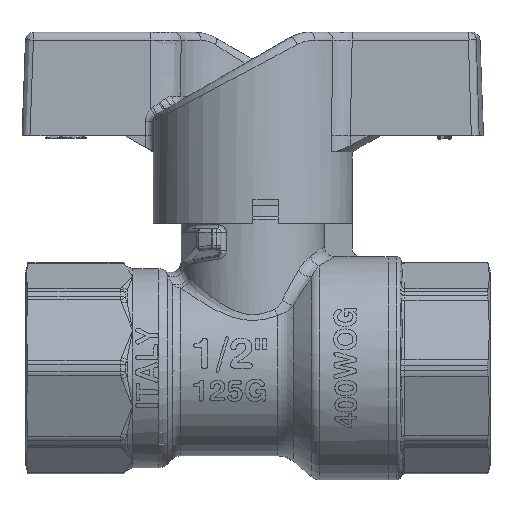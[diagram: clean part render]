
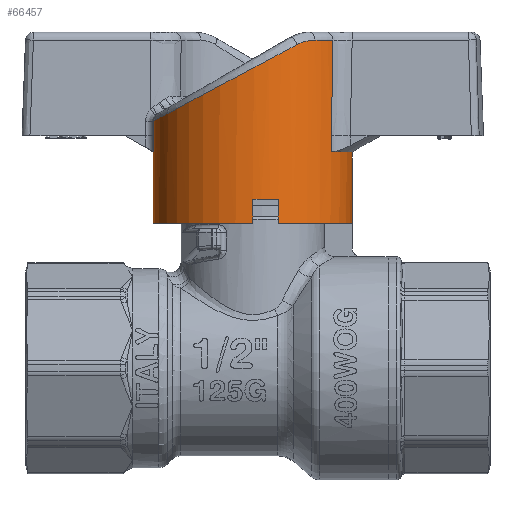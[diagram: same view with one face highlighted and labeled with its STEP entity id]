
A CAD part, top view. The second image highlights one B-rep face of the part: STEP entity #66457.
In plain terms, the highlighted cylindrical face has radius 12.5 mm (diameter 25 mm), a partial arc.
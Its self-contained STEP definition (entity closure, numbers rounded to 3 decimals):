
#61333=DIRECTION('',(0.,1.,0.));
#61334=VECTOR('',#61333,5.979);
#61335=CARTESIAN_POINT('',(12.5,3.,0.));
#61336=LINE('',#61335,#61334);
#61404=DIRECTION('',(0.,1.,0.));
#61405=VECTOR('',#61404,8.979);
#61406=CARTESIAN_POINT('',(-12.5,0.,0.));
#61407=LINE('',#61406,#61405);
#61436=CARTESIAN_POINT('',(0.,3.,0.));
#61437=DIRECTION('',(0.,-1.,0.));
#61438=DIRECTION('',(1.,0.,0.));
#61439=AXIS2_PLACEMENT_3D('',#61436,#61437,#61438);
#61484=DIRECTION('',(0.,-1.,0.));
#61485=VECTOR('',#61484,3.);
#61486=CARTESIAN_POINT('',(3.2,3.,12.083));
#61487=LINE('',#61486,#61485);
#61506=DIRECTION('',(0.,-1.,0.));
#61507=VECTOR('',#61506,3.);
#61508=CARTESIAN_POINT('',(12.49,3.,0.5));
#61509=LINE('',#61508,#61507);
#61514=CARTESIAN_POINT('',(0.,0.,0.));
#61515=DIRECTION('',(0.,-1.,0.));
#61516=DIRECTION('',(0.,0.,1.));
#61517=AXIS2_PLACEMENT_3D('',#61514,#61515,#61516);
#61519=CARTESIAN_POINT('',(0.,8.979,0.));
#61520=DIRECTION('',(0.,-1.,0.));
#61521=DIRECTION('',(-0.997,0.,0.074));
#61522=AXIS2_PLACEMENT_3D('',#61519,#61520,#61521);
#61524=DIRECTION('',(0.,-1.,0.));
#61525=VECTOR('',#61524,2.034);
#61526=CARTESIAN_POINT('',(-12.466,11.013,
0.926));
#61527=LINE('',#61526,#61525);
#61528=CARTESIAN_POINT('',(-12.469,12.851,
0.881));
#61529=CARTESIAN_POINT('',(-12.468,12.549,
0.889));
#61530=CARTESIAN_POINT('',(-12.467,11.941,
0.903));
#61531=CARTESIAN_POINT('',(-12.466,11.324,
0.918));
#61532=CARTESIAN_POINT('',(-12.466,11.013,
0.926));
#61534=CARTESIAN_POINT('',(-12.469,12.851,
0.881));
#61535=CARTESIAN_POINT('',(-12.448,12.863,
1.177));
#61536=CARTESIAN_POINT('',(-12.385,12.896,
1.77));
#61537=CARTESIAN_POINT('',(-12.227,12.98,
2.647));
#61538=CARTESIAN_POINT('',(-12.001,13.1,
3.537));
#61539=CARTESIAN_POINT('',(-11.686,13.267,
4.477));
#61540=CARTESIAN_POINT('',(-11.253,13.497,
5.484));
#61541=CARTESIAN_POINT('',(-10.864,13.704,
6.197));
#61542=CARTESIAN_POINT('',(-10.642,13.822,
6.558));
#61544=CARTESIAN_POINT('',(-10.642,13.822,
6.558));
#61545=CARTESIAN_POINT('',(-10.366,13.968,
7.005));
#61546=CARTESIAN_POINT('',(-9.751,14.295,
7.871));
#61547=CARTESIAN_POINT('',(-8.708,14.849,
9.018));
#61548=CARTESIAN_POINT('',(-7.378,15.556,
10.144));
#61549=CARTESIAN_POINT('',(-5.846,16.369,
11.099));
#61550=CARTESIAN_POINT('',(-4.152,17.269,
11.839));
#61551=CARTESIAN_POINT('',(-2.373,18.214,
12.317));
#61552=CARTESIAN_POINT('',(-0.632,19.139,
12.522));
#61553=CARTESIAN_POINT('',(0.959,19.984,
12.493));
#61554=CARTESIAN_POINT('',(2.364,20.73,12.299));
#61555=CARTESIAN_POINT('',(3.604,21.389,11.99));
#61556=CARTESIAN_POINT('',(4.692,21.967,11.603));
#61557=CARTESIAN_POINT('',(5.331,22.306,11.311));
#61558=CARTESIAN_POINT('',(5.628,22.464,11.161));
#61560=CARTESIAN_POINT('',(5.628,22.464,11.161));
#61561=CARTESIAN_POINT('',(5.74,22.523,11.105));
#61562=CARTESIAN_POINT('',(5.976,22.636,10.982));
#61563=CARTESIAN_POINT('',(6.366,22.783,10.761));
#61564=CARTESIAN_POINT('',(6.8,22.9,10.493));
#61565=CARTESIAN_POINT('',(7.277,22.98,10.17));
#61566=CARTESIAN_POINT('',(7.624,23.,9.909));
#61567=CARTESIAN_POINT('',(7.802,23.,9.766));
#61569=CARTESIAN_POINT('',(0.,23.,0.));
#61570=DIRECTION('',(0.,1.,0.));
#61571=DIRECTION('',(0.624,0.,0.781));
#61572=AXIS2_PLACEMENT_3D('',#61569,#61570,#61571);
#61574=CARTESIAN_POINT('',(10.068,23.,7.409));
#61575=CARTESIAN_POINT('',(10.054,22.084,7.428));
#61576=CARTESIAN_POINT('',(10.024,20.22,7.467));
#61577=CARTESIAN_POINT('',(9.979,17.356,7.528));
#61578=CARTESIAN_POINT('',(9.93,14.323,7.592));
#61579=CARTESIAN_POINT('',(9.895,12.156,7.638));
#61580=CARTESIAN_POINT('',(9.877,11.039,7.661));
#61582=DIRECTION('',(0.,-1.,0.));
#61583=VECTOR('',#61582,2.06);
#61584=CARTESIAN_POINT('',(9.877,11.039,7.661));
#61585=LINE('',#61584,#61583);
#61586=CARTESIAN_POINT('',(0.,0.,0.));
#61587=DIRECTION('',(0.,-1.,0.));
#61588=DIRECTION('',(0.999,0.,0.04));
#61589=AXIS2_PLACEMENT_3D('',#61586,#61587,#61588);
#61591=CARTESIAN_POINT('',(0.,3.,0.));
#61592=DIRECTION('',(0.,-1.,0.));
#61593=DIRECTION('',(0.256,0.,0.967));
#61594=AXIS2_PLACEMENT_3D('',#61591,#61592,#61593);
#61609=DIRECTION('',(0.,-1.,0.));
#61610=VECTOR('',#61609,3.);
#61611=CARTESIAN_POINT('',(0.,3.,12.5));
#61612=LINE('',#61611,#61610);
#62198=CARTESIAN_POINT('',(0.,8.979,0.));
#62199=DIRECTION('',(0.,-1.,0.));
#62200=DIRECTION('',(1.,0.,0.));
#62201=AXIS2_PLACEMENT_3D('',#62198,#62199,#62200);
#62221=CARTESIAN_POINT('',(9.877,11.039,7.661));
#62232=CARTESIAN_POINT('',(10.068,23.,7.409));
#62555=CARTESIAN_POINT('',(-12.469,12.851,
0.881));
#65169=CARTESIAN_POINT('',(-12.466,8.979,
0.926));
#65264=CARTESIAN_POINT('',(12.49,0.,0.5));
#65266=VERTEX_POINT('',#65264);
#65273=CARTESIAN_POINT('',(12.5,3.,0.));
#65275=VERTEX_POINT('',#65273);
#65280=CARTESIAN_POINT('',(-12.5,0.,0.));
#65281=VERTEX_POINT('',#65280);
#65282=CARTESIAN_POINT('',(12.49,3.,0.5));
#65284=VERTEX_POINT('',#65282);
#65295=CARTESIAN_POINT('',(3.2,0.,12.083));
#65297=VERTEX_POINT('',#65295);
#65298=CARTESIAN_POINT('',(0.,0.,12.5));
#65300=VERTEX_POINT('',#65298);
#65302=CARTESIAN_POINT('',(3.2,3.,12.083));
#65303=VERTEX_POINT('',#65302);
#65304=CARTESIAN_POINT('',(0.,3.,12.5));
#65305=VERTEX_POINT('',#65304);
#65467=VERTEX_POINT('',#62221);
#65562=VERTEX_POINT('',#62232);
#65563=CARTESIAN_POINT('',(7.802,23.,9.766));
#65564=VERTEX_POINT('',#65563);
#65569=VERTEX_POINT('',#61544);
#65570=VERTEX_POINT('',#61558);
#65583=VERTEX_POINT('',#62555);
#65596=VERTEX_POINT('',#65169);
#65598=CARTESIAN_POINT('',(-12.466,11.013,
0.926));
#65599=VERTEX_POINT('',#65598);
#65600=CARTESIAN_POINT('',(-12.5,8.979,0.));
#65601=VERTEX_POINT('',#65600);
#65608=CARTESIAN_POINT('',(12.5,8.979,0.));
#65609=VERTEX_POINT('',#65608);
#65655=CARTESIAN_POINT('',(9.877,8.979,7.661));
#65656=VERTEX_POINT('',#65655);
#66419=CARTESIAN_POINT('',(0.,79.298,0.));
#66420=DIRECTION('',(0.,-1.,0.));
#66421=DIRECTION('',(-1.,0.,0.));
#66422=AXIS2_PLACEMENT_3D('',#66419,#66420,#66421);
#66423=CYLINDRICAL_SURFACE('',#66422,12.5);
#66424=ORIENTED_EDGE('',*,*,#66361,.F.);
#66426=ORIENTED_EDGE('',*,*,#66425,.T.);
#66428=ORIENTED_EDGE('',*,*,#66427,.T.);
#66429=ORIENTED_EDGE('',*,*,#66346,.T.);
#66430=ORIENTED_EDGE('',*,*,#66275,.T.);
#66432=ORIENTED_EDGE('',*,*,#66431,.F.);
#66434=ORIENTED_EDGE('',*,*,#66433,.F.);
#66436=ORIENTED_EDGE('',*,*,#66435,.F.);
#66438=ORIENTED_EDGE('',*,*,#66437,.T.);
#66440=ORIENTED_EDGE('',*,*,#66439,.T.);
#66442=ORIENTED_EDGE('',*,*,#66441,.T.);
#66444=ORIENTED_EDGE('',*,*,#66443,.T.);
#66446=ORIENTED_EDGE('',*,*,#66445,.T.);
#66448=ORIENTED_EDGE('',*,*,#66447,.T.);
#66450=ORIENTED_EDGE('',*,*,#66449,.F.);
#66451=ORIENTED_EDGE('',*,*,#66257,.F.);
#66452=ORIENTED_EDGE('',*,*,#66298,.T.);
#66453=ORIENTED_EDGE('',*,*,#66412,.T.);
#66454=ORIENTED_EDGE('',*,*,#66324,.T.);
#66455=EDGE_LOOP('',(#66424,#66426,#66428,#66429,#66430,#66432,#66434,#66436,
#66438,#66440,#66442,#66444,#66446,#66448,#66450,#66451,#66452,#66453,#66454));
#66456=FACE_OUTER_BOUND('',#66455,.F.);
#66457=ADVANCED_FACE('',(#66456),#66423,.T.);
#61440=CIRCLE('',#61439,12.5);
#61518=CIRCLE('',#61517,12.5);
#61523=CIRCLE('',#61522,12.5);
#61533=B_SPLINE_CURVE_WITH_KNOTS('',3,(#61528,#61529,#61530,#61531,#61532),
.UNSPECIFIED.,.F.,.F.,(4,1,4),(0.,0.5,1.),.UNSPECIFIED.);
#61543=B_SPLINE_CURVE_WITH_KNOTS('',3,(#61534,#61535,#61536,#61537,#61538,
#61539,#61540,#61541,#61542),.UNSPECIFIED.,.F.,.F.,(4,1,1,1,1,1,4),(0.,
0.167,0.333,0.5,0.667,0.833,
1.),.UNSPECIFIED.);
#61559=B_SPLINE_CURVE_WITH_KNOTS('',3,(#61544,#61545,#61546,#61547,#61548,
#61549,#61550,#61551,#61552,#61553,#61554,#61555,#61556,#61557,#61558),
.UNSPECIFIED.,.F.,.F.,(4,1,1,1,1,1,1,1,1,1,1,1,4),(0.,0.083,
0.167,0.25,0.333,0.417,0.5,
0.583,0.667,0.75,0.833,0.917,
1.),.UNSPECIFIED.);
#61568=B_SPLINE_CURVE_WITH_KNOTS('',3,(#61560,#61561,#61562,#61563,#61564,
#61565,#61566,#61567),.UNSPECIFIED.,.F.,.F.,(4,1,1,1,1,4),(0.,0.2,0.4,
0.6,0.8,1.),.UNSPECIFIED.);
#61573=CIRCLE('',#61572,12.5);
#61581=B_SPLINE_CURVE_WITH_KNOTS('',3,(#61574,#61575,#61576,#61577,#61578,
#61579,#61580),.UNSPECIFIED.,.F.,.F.,(4,1,1,1,4),(0.,0.25,0.5,0.75,
1.),.UNSPECIFIED.);
#61590=CIRCLE('',#61589,12.5);
#61595=CIRCLE('',#61594,12.5);
#62202=CIRCLE('',#62201,12.5);
#66257=EDGE_CURVE('',#65275,#65609,#61336,.T.);
#66275=EDGE_CURVE('',#65281,#65601,#61407,.T.);
#66298=EDGE_CURVE('',#65275,#65284,#61440,.T.);
#66324=EDGE_CURVE('',#65266,#65297,#61590,.T.);
#66346=EDGE_CURVE('',#65300,#65281,#61518,.T.);
#66361=EDGE_CURVE('',#65303,#65297,#61487,.T.);
#66412=EDGE_CURVE('',#65284,#65266,#61509,.T.);
#66425=EDGE_CURVE('',#65303,#65305,#61595,.T.);
#66427=EDGE_CURVE('',#65305,#65300,#61612,.T.);
#66431=EDGE_CURVE('',#65596,#65601,#61523,.T.);
#66433=EDGE_CURVE('',#65599,#65596,#61527,.T.);
#66435=EDGE_CURVE('',#65583,#65599,#61533,.T.);
#66437=EDGE_CURVE('',#65583,#65569,#61543,.T.);
#66439=EDGE_CURVE('',#65569,#65570,#61559,.T.);
#66441=EDGE_CURVE('',#65570,#65564,#61568,.T.);
#66443=EDGE_CURVE('',#65564,#65562,#61573,.T.);
#66445=EDGE_CURVE('',#65562,#65467,#61581,.T.);
#66447=EDGE_CURVE('',#65467,#65656,#61585,.T.);
#66449=EDGE_CURVE('',#65609,#65656,#62202,.T.);
